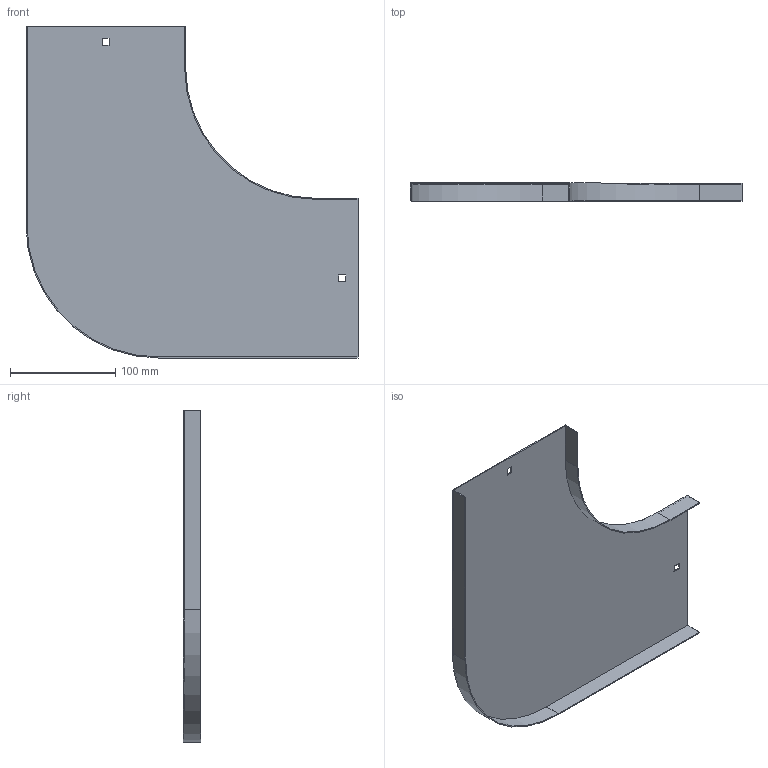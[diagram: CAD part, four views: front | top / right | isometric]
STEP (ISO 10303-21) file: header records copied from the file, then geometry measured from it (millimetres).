
FILE_DESCRIPTION (( 'STEP AP214' ), '1' );
FILE_NAME ('OP9_150.step', '2025-07-16T09:14:57', ( '' ), ( '' ), 'SwSTEP 2.0', 'SolidWorks 2023', '' );
FILE_SCHEMA (( 'AUTOMOTIVE_DESIGN' ));
Length unit declared in the file: millimetre
Products named in the file (1): OP9_150
Bounding box: 316 x 17 x 316 mm (x, y, z)
Volume: 86411.9 mm3; surface area: 174096.5 mm2
Topology: 1 solids, 1 shells, 26 faces, 72 edges, 48 vertices
Faces by surface type: plane 22, cylinder 4
Entity records: 855 total; most frequent: CARTESIAN_POINT 147, ORIENTED_EDGE 144, DIRECTION 134, EDGE_CURVE 72, VECTOR 64, LINE 64, VERTEX_POINT 48, AXIS2_PLACEMENT_3D 35
